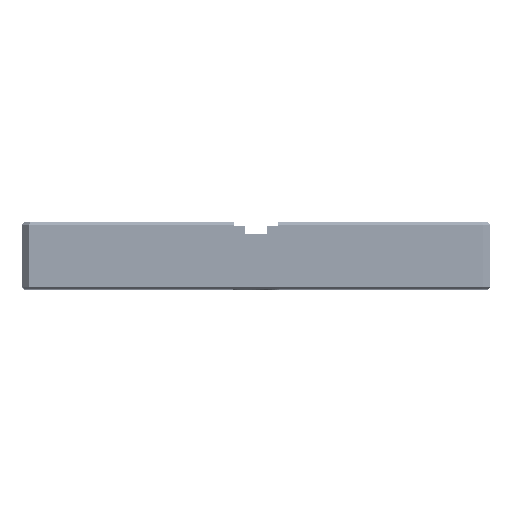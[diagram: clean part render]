
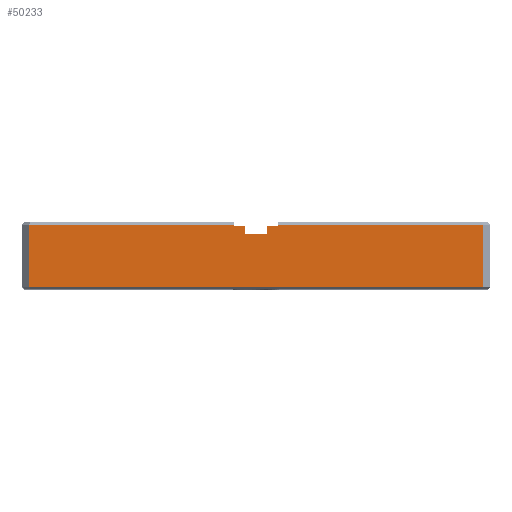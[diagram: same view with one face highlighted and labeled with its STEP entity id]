
A CAD part, top view. The second image highlights one B-rep face of the part: STEP entity #50233.
In plain terms, the highlighted planar face has unit normal (0, 0, 1).
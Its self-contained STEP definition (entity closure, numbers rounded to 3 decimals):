
#1574=DIRECTION('',(1.,0.,0.));
#1575=VECTOR('',#1574,3.);
#1576=CARTESIAN_POINT('',(-1.5,7.4,31.75));
#1577=LINE('',#1576,#1575);
#1578=DIRECTION('',(0.,-1.,0.));
#1579=VECTOR('',#1578,1.1);
#1580=CARTESIAN_POINT('',(1.5,8.5,31.75));
#1581=LINE('',#1580,#1579);
#1582=DIRECTION('',(1.,0.,0.));
#1583=VECTOR('',#1582,1.5);
#1584=CARTESIAN_POINT('',(1.5,8.5,31.75));
#1585=LINE('',#1584,#1583);
#1586=DIRECTION('',(0.,-1.,0.));
#1587=VECTOR('',#1586,0.2);
#1588=CARTESIAN_POINT('',(3.,8.7,31.75));
#1589=LINE('',#1588,#1587);
#1590=DIRECTION('',(1.,0.,0.));
#1591=VECTOR('',#1590,27.75);
#1592=CARTESIAN_POINT('',(3.,8.7,31.75));
#1593=LINE('',#1592,#1591);
#1594=DIRECTION('',(0.,-1.,0.));
#1595=VECTOR('',#1594,8.4);
#1596=CARTESIAN_POINT('',(30.75,8.7,31.75));
#1597=LINE('',#1596,#1595);
#1598=DIRECTION('',(-1.,0.,0.));
#1599=VECTOR('',#1598,61.5);
#1600=CARTESIAN_POINT('',(30.75,0.3,31.75));
#1601=LINE('',#1600,#1599);
#1602=DIRECTION('',(0.,-1.,0.));
#1603=VECTOR('',#1602,8.4);
#1604=CARTESIAN_POINT('',(-30.75,8.7,31.75));
#1605=LINE('',#1604,#1603);
#1606=DIRECTION('',(1.,0.,0.));
#1607=VECTOR('',#1606,27.75);
#1608=CARTESIAN_POINT('',(-30.75,8.7,31.75));
#1609=LINE('',#1608,#1607);
#1610=DIRECTION('',(0.,-1.,0.));
#1611=VECTOR('',#1610,0.2);
#1612=CARTESIAN_POINT('',(-3.,8.7,31.75));
#1613=LINE('',#1612,#1611);
#1614=DIRECTION('',(1.,0.,0.));
#1615=VECTOR('',#1614,1.5);
#1616=CARTESIAN_POINT('',(-3.,8.5,31.75));
#1617=LINE('',#1616,#1615);
#1618=DIRECTION('',(0.,-1.,0.));
#1619=VECTOR('',#1618,1.1);
#1620=CARTESIAN_POINT('',(-1.5,8.5,31.75));
#1621=LINE('',#1620,#1619);
#47767=CARTESIAN_POINT('',(-30.75,8.7,31.75));
#47769=VERTEX_POINT('',#47767);
#47774=CARTESIAN_POINT('',(30.75,8.7,31.75));
#47776=VERTEX_POINT('',#47774);
#47794=CARTESIAN_POINT('',(-30.75,0.3,31.75));
#47796=VERTEX_POINT('',#47794);
#47820=CARTESIAN_POINT('',(30.75,0.3,31.75));
#47821=VERTEX_POINT('',#47820);
#47958=CARTESIAN_POINT('',(-3.,8.7,31.75));
#47959=CARTESIAN_POINT('',(-3.,8.5,31.75));
#47960=VERTEX_POINT('',#47958);
#47961=VERTEX_POINT('',#47959);
#47962=CARTESIAN_POINT('',(3.,8.7,31.75));
#47963=CARTESIAN_POINT('',(3.,8.5,31.75));
#47964=VERTEX_POINT('',#47962);
#47965=VERTEX_POINT('',#47963);
#48167=CARTESIAN_POINT('',(-1.5,7.4,31.75));
#48168=CARTESIAN_POINT('',(1.5,7.4,31.75));
#48169=VERTEX_POINT('',#48167);
#48170=VERTEX_POINT('',#48168);
#48171=CARTESIAN_POINT('',(-1.5,8.5,31.75));
#48172=VERTEX_POINT('',#48171);
#48173=CARTESIAN_POINT('',(1.5,8.5,31.75));
#48174=VERTEX_POINT('',#48173);
#50204=CARTESIAN_POINT('',(-31.75,0.,31.75));
#50205=DIRECTION('',(0.,0.,1.));
#50206=DIRECTION('',(1.,0.,0.));
#50207=AXIS2_PLACEMENT_3D('',#50204,#50205,#50206);
#50208=PLANE('',#50207);
#50209=ORIENTED_EDGE('',*,*,#49775,.T.);
#50210=ORIENTED_EDGE('',*,*,#50096,.F.);
#50212=ORIENTED_EDGE('',*,*,#50211,.T.);
#50214=ORIENTED_EDGE('',*,*,#50213,.F.);
#50216=ORIENTED_EDGE('',*,*,#50215,.T.);
#50218=ORIENTED_EDGE('',*,*,#50217,.T.);
#50220=ORIENTED_EDGE('',*,*,#50219,.T.);
#50222=ORIENTED_EDGE('',*,*,#50221,.F.);
#50224=ORIENTED_EDGE('',*,*,#50223,.T.);
#50226=ORIENTED_EDGE('',*,*,#50225,.T.);
#50228=ORIENTED_EDGE('',*,*,#50227,.T.);
#50230=ORIENTED_EDGE('',*,*,#50229,.T.);
#50231=EDGE_LOOP('',(#50209,#50210,#50212,#50214,#50216,#50218,#50220,#50222,
#50224,#50226,#50228,#50230));
#50232=FACE_OUTER_BOUND('',#50231,.F.);
#50233=ADVANCED_FACE('',(#50232),#50208,.T.);
#49775=EDGE_CURVE('',#48169,#48170,#1577,.T.);
#50096=EDGE_CURVE('',#48174,#48170,#1581,.T.);
#50211=EDGE_CURVE('',#48174,#47965,#1585,.T.);
#50213=EDGE_CURVE('',#47964,#47965,#1589,.T.);
#50215=EDGE_CURVE('',#47964,#47776,#1593,.T.);
#50217=EDGE_CURVE('',#47776,#47821,#1597,.T.);
#50219=EDGE_CURVE('',#47821,#47796,#1601,.T.);
#50221=EDGE_CURVE('',#47769,#47796,#1605,.T.);
#50223=EDGE_CURVE('',#47769,#47960,#1609,.T.);
#50225=EDGE_CURVE('',#47960,#47961,#1613,.T.);
#50227=EDGE_CURVE('',#47961,#48172,#1617,.T.);
#50229=EDGE_CURVE('',#48172,#48169,#1621,.T.);
